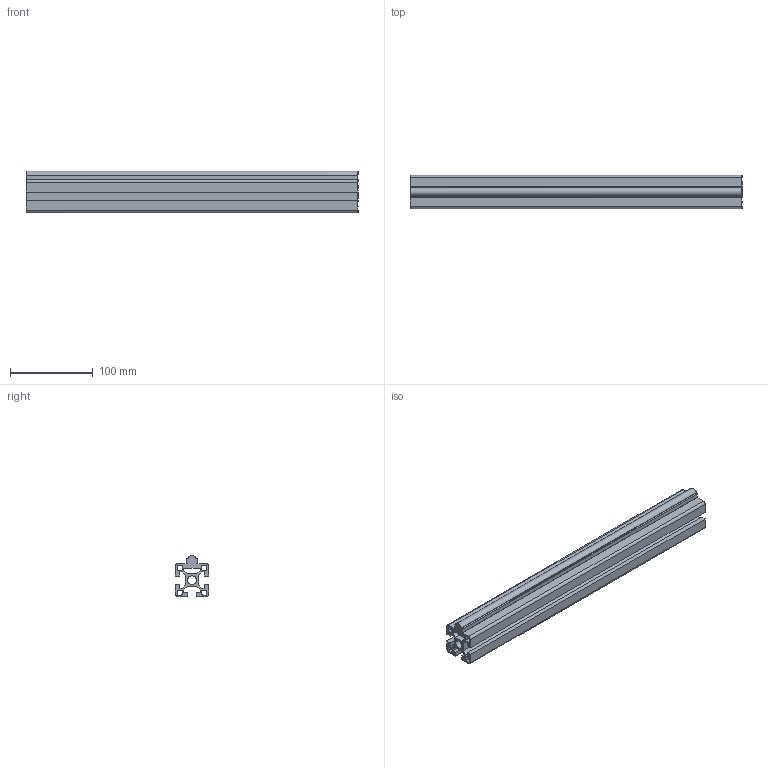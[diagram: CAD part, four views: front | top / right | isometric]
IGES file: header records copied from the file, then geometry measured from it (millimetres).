
Global section: file name: No Iges File Name specified; native system: AutoDesk Inventor R11.0; preprocessor: AutoDesk Inventor Iges Exporter R11.0; author: No Author specified; organization: No Organization specified; date: 20170118.094218; units: millimetre
Bounding box: 400 x 40 x 50 mm (x, y, z)
Surface area: 187702.5 mm2 (no closed solid volume)
Topology: 0 solids, 0 shells, 90 faces, 564 edges, 564 vertices
Faces by surface type: bspline 90
